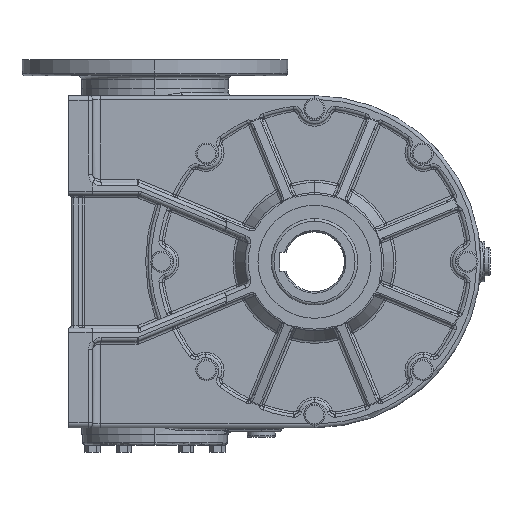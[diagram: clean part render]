
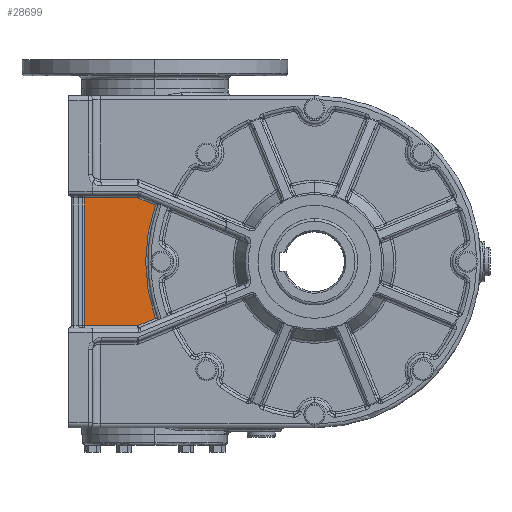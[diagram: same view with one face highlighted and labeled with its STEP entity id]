
A CAD part, left-side view. The second image highlights one B-rep face of the part: STEP entity #28699.
In plain terms, the highlighted planar face has unit normal (-1, 0, 0) as drawn and (0, 0, -1) by its records, which use the part's own axes.
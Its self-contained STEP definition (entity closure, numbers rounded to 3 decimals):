
#28699 = ADVANCED_FACE ( 'NONE', ( #72466 ), #72465, .F. ) ;
#28701 = EDGE_LOOP ( 'NONE', ( #28703, #28711, #28717, #28724, #28831, #28837 ) ) ;
#28703 = ORIENTED_EDGE ( 'NONE', *, *, #28705, .T. ) ;
#28705 = EDGE_CURVE ( 'NONE', #28707, #28709, #72460, .T. ) ;
#28707 = VERTEX_POINT ( 'NONE', #72456 ) ;
#28709 = VERTEX_POINT ( 'NONE', #72455 ) ;
#28711 = ORIENTED_EDGE ( 'NONE', *, *, #28713, .T. ) ;
#28713 = EDGE_CURVE ( 'NONE', #28709, #28715, #72454, .T. ) ;
#28715 = VERTEX_POINT ( 'NONE', #72515 ) ;
#28717 = ORIENTED_EDGE ( 'NONE', *, *, #28719, .T. ) ;
#28719 = EDGE_CURVE ( 'NONE', #28715, #28722, #72514, .T. ) ;
#28722 = VERTEX_POINT ( 'NONE', #72510 ) ;
#28724 = ORIENTED_EDGE ( 'NONE', *, *, #28726, .T. ) ;
#28726 = EDGE_CURVE ( 'NONE', #28722, #28829, #72509, .T. ) ;
#28829 = VERTEX_POINT ( 'NONE', #72550 ) ;
#28831 = ORIENTED_EDGE ( 'NONE', *, *, #28833, .T. ) ;
#28833 = EDGE_CURVE ( 'NONE', #28829, #28835, #72549, .T. ) ;
#28835 = VERTEX_POINT ( 'NONE', #72609 ) ;
#28837 = ORIENTED_EDGE ( 'NONE', *, *, #28838, .T. ) ;
#28838 = EDGE_CURVE ( 'NONE', #28835, #28707, #72608, .T. ) ;
#72453 = CARTESIAN_POINT ( 'NONE',  ( -50., -173., -9. ) ) ;
#72454 = LINE ( 'NONE', #72453, #72517 ) ;
#72455 = CARTESIAN_POINT ( 'NONE',  ( 48., -173., -9. ) ) ;
#72456 = CARTESIAN_POINT ( 'NONE',  ( 48., -132.868, -9. ) ) ;
#72457 = DIRECTION ( 'NONE',  ( 0., -1., 0. ) ) ;
#72458 = VECTOR ( 'NONE', #72457, 1000. ) ;
#72459 = CARTESIAN_POINT ( 'NONE',  ( 48., 0., -9. ) ) ;
#72460 = LINE ( 'NONE', #72459, #72458 ) ;
#72461 = DIRECTION ( 'NONE',  ( 1., 0., 0. ) ) ;
#72462 = DIRECTION ( 'NONE',  ( 0., 0., 1. ) ) ;
#72463 = CARTESIAN_POINT ( 'NONE',  ( 0., 0., -9. ) ) ;
#72464 = AXIS2_PLACEMENT_3D ( 'NONE', #72463, #72462, #72461 ) ;
#72465 = PLANE ( 'NONE',  #72464 ) ;
#72466 = FACE_OUTER_BOUND ( 'NONE', #28701, .T. ) ;
#72506 = DIRECTION ( 'NONE',  ( 0.383, 0.924, 0. ) ) ;
#72507 = VECTOR ( 'NONE', #72506, 1000. ) ;
#72508 = CARTESIAN_POINT ( 'NONE',  ( -41.799, -117.898, -9. ) ) ;
#72509 = LINE ( 'NONE', #72508, #72507 ) ;
#72510 = CARTESIAN_POINT ( 'NONE',  ( -48., -132.868, -9. ) ) ;
#72511 = DIRECTION ( 'NONE',  ( 0., 1., 0. ) ) ;
#72512 = VECTOR ( 'NONE', #72511, 1000. ) ;
#72513 = CARTESIAN_POINT ( 'NONE',  ( -48., 0., -9. ) ) ;
#72514 = LINE ( 'NONE', #72513, #72512 ) ;
#72515 = CARTESIAN_POINT ( 'NONE',  ( -48., -173., -9. ) ) ;
#72516 = DIRECTION ( 'NONE',  ( -1., 0., 0. ) ) ;
#72517 = VECTOR ( 'NONE', #72516, 1000. ) ;
#72549 = CIRCLE ( 'NONE', #72613, 127. ) ;
#72550 = CARTESIAN_POINT ( 'NONE',  ( -42.532, -119.666, -9. ) ) ;
#72605 = DIRECTION ( 'NONE',  ( 0.383, -0.924, 0. ) ) ;
#72606 = VECTOR ( 'NONE', #72605, 1000. ) ;
#72607 = CARTESIAN_POINT ( 'NONE',  ( 48.152, -133.235, -9. ) ) ;
#72608 = LINE ( 'NONE', #72607, #72606 ) ;
#72609 = CARTESIAN_POINT ( 'NONE',  ( 42.532, -119.666, -9. ) ) ;
#72610 = DIRECTION ( 'NONE',  ( 1., 0., 0. ) ) ;
#72611 = DIRECTION ( 'NONE',  ( 0., 0., 1. ) ) ;
#72612 = CARTESIAN_POINT ( 'NONE',  ( 0., 0., -9. ) ) ;
#72613 = AXIS2_PLACEMENT_3D ( 'NONE', #72612, #72611, #72610 ) ;
